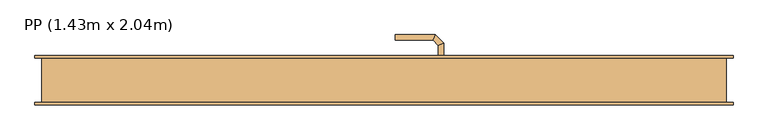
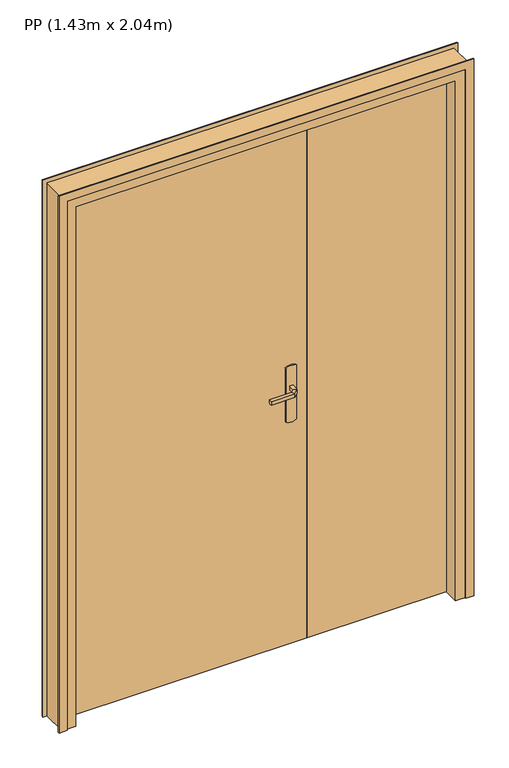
"""IFC4 building model written with IfcOpenShell, lengths in millimetres: door geometry, Int. Tierce : PP (1.43m x 2.04m)."""

from ifc_helpers import new_model, si_unit, point, frame, frame_2d, origin, origin_with_axes, place, context, project, spatial, polyline, circle_curve, ellipse_curve, trimmed, segment, composite_curve, outline, extrude, faceted_brep, source, transform, mapped, element, save
from ifc_brep_helpers import plane_surface, cylinder_surface, advanced_brep


def pp_1_43m_x_2_04m_4e16e3f7(model_context):
    return source(origin(), model_context, "Body", "SolidModel", [
        extrude(outline(composite_curve([segment(polyline([(870.0, 110.0), (1080.0, 110.0)]), True, "CONTINUOUS"), segment(trimmed(circle_curve(frame_2d((1045.3589838, 90.0)), 40.0), [point((1080.0, 110.0))], [point((1080.0, 70.0))], False, "CARTESIAN"), True, "CONTINUOUS"), segment(polyline([(1080.0, 70.0), (870.0, 70.0)]), True, "CONTINUOUS"), segment(trimmed(circle_curve(frame_2d((904.6410162, 90.0)), 40.0), [point((870.0, 70.0))], [point((870.0, 110.0))], False, "CARTESIAN"), True, "CONTINUOUS")], self_intersect=False)), frame((0.0, 49.0, 0.0), z_axis=(0.0, 1.0, 0.0), x_axis=(0.0, 0.0, 1.0)), (0.0, 0.0, 1.0), 5.0),
        extrude(outline(composite_curve([segment(polyline([(1080.0, 70.0), (870.0, 70.0)]), True, "CONTINUOUS"), segment(trimmed(circle_curve(frame_2d((904.6410162, 90.0)), 40.0), [point((870.0, 70.0))], [point((870.0, 110.0))], False, "CARTESIAN"), True, "CONTINUOUS"), segment(polyline([(870.0, 110.0), (1080.0, 110.0)]), True, "CONTINUOUS"), segment(trimmed(circle_curve(frame_2d((1045.3589838, 90.0)), 40.0), [point((1080.0, 110.0))], [point((1080.0, 70.0))], False, "CARTESIAN"), True, "CONTINUOUS")], self_intersect=False)), frame((0.0, 4.0, 0.0), z_axis=(0.0, 1.0, 0.0), x_axis=(0.0, 0.0, 1.0)), (0.0, 0.0, 1.0), 5.0),
        advanced_brep(
        [(96.0, 54.0, 1007.0), (84.0, 54.0, 1007.0), (84.0, 54.0, 993.0), (96.0, 54.0, 993.0), (96.0, 81.6509507, 1007.0), (84.0, 76.680388, 1007.0), (84.0, 76.680388, 993.0), (96.0, 81.6509507, 993.0), (77.62279, 100.0281607, 1007.0), (72.6522273, 88.0281607, 1007.0), (72.6522273, 88.0281607, 993.0), (77.62279, 100.0281607, 993.0), (-10.0186406, 100.0281607, 1007.0), (-10.0186406, 100.0281607, 993.0), (-10.0186406, 88.0281607, 993.0), (-10.0186406, 88.0281607, 1007.0)],
        [
            (0, 1, circle_curve(frame((90.0, 54.0, 986.9542278), z_axis=(0.0, -1.0, 0.0), x_axis=(-1.0, 0.0, 0.0)), 20.9244589)),
            (1, 2),
            (2, 3, circle_curve(frame((90.0, 54.0, 1013.0457722), z_axis=(0.0, -1.0, 0.0), x_axis=(-1.0, 0.0, 0.0)), 20.9244589)),
            (3, 0),
            (0, 4),
            (4, 5, ellipse_curve(frame((90.0, 79.1656693, 986.9542278), z_axis=(0.3826834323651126, -0.9238795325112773, 0.0), x_axis=(-0.9238795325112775, -0.38268343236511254, 0.0)), 22.6484711, 20.9244589)),
            (5, 1),
            (5, 6),
            (6, 2),
            (6, 7, ellipse_curve(frame((90.0, 79.1656693, 1013.0457722), z_axis=(0.3826834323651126, -0.9238795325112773, 0.0), x_axis=(-0.9238795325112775, -0.38268343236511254, 0.0)), 22.6484711, 20.9244589)),
            (7, 3),
            (7, 4),
            (4, 8),
            (8, 9, ellipse_curve(frame((75.1375086, 94.0281607, 986.9542278), z_axis=(0.9238795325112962, -0.38268343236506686, 0.0), x_axis=(-0.3826834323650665, -0.9238795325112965, 0.0)), 22.6484711, 20.9244589)),
            (9, 5),
            (9, 10),
            (10, 6),
            (10, 11, ellipse_curve(frame((75.1375086, 94.0281607, 1013.0457722), z_axis=(0.9238795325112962, -0.38268343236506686, 0.0), x_axis=(-0.3826834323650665, -0.9238795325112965, 0.0)), 22.6484711, 20.9244589)),
            (11, 7),
            (11, 8),
            (12, 13),
            (13, 14, circle_curve(frame((-10.0186406, 94.0281607, 1013.0457722), z_axis=(-1.0, 0.0, 0.0), x_axis=(0.0, -1.0, 0.0)), 20.9244589)),
            (14, 15),
            (15, 12, circle_curve(frame((-10.0186406, 94.0281607, 986.9542278), z_axis=(-1.0, 0.0, 0.0), x_axis=(0.0, -1.0, 0.0)), 20.9244589)),
            (8, 12),
            (15, 9),
            (14, 10),
            (13, 11),
        ],
        [
            plane_surface(frame((99.2195445, 54.0, 1000.0), z_axis=(0.0, -1.0, 0.0), x_axis=(0.0, 0.0, -1.0))),
            cylinder_surface(frame((90.0, 54.0, 986.9542278), z_axis=(0.0, -1.0, 0.0), x_axis=(-1.0, 0.0, 0.0)), 20.9244589),
            plane_surface(frame((84.0, 54.0, 1007.0), z_axis=(-1.0, 0.0, 0.0), x_axis=(0.0, 1.0, 0.0))),
            cylinder_surface(frame((90.0, 54.0, 1013.0457722), z_axis=(0.0, -1.0, 0.0), x_axis=(-1.0, 0.0, 0.0)), 20.9244589),
            plane_surface(frame((96.0, 54.0, 993.0), z_axis=(1.0, 0.0, 0.0), x_axis=(0.0, 1.0, 0.0))),
            cylinder_surface(frame((90.0, 79.1656693, 986.9542278), z_axis=(0.7071067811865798, -0.7071067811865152, 0.0), x_axis=(-0.7071067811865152, -0.7071067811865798, 0.0)), 20.9244589),
            plane_surface(frame((84.0, 76.680388, 1007.0), z_axis=(-0.7071067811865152, -0.7071067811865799, 0.0), x_axis=(-0.7071067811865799, 0.7071067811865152, 0.0))),
            cylinder_surface(frame((90.0, 79.1656693, 1013.0457722), z_axis=(0.7071067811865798, -0.7071067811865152, 0.0), x_axis=(-0.7071067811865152, -0.7071067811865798, 0.0)), 20.9244589),
            plane_surface(frame((96.0, 81.6509507, 993.0), z_axis=(0.7071067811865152, 0.7071067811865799, 0.0), x_axis=(-0.7071067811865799, 0.7071067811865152, 0.0))),
            plane_surface(frame((-10.0186406, 94.0281607, 990.7804555), z_axis=(-1.0, 0.0, 0.0), x_axis=(0.0, -1.0, 0.0))),
            cylinder_surface(frame((75.1375086, 94.0281607, 986.9542278), z_axis=(1.0, 0.0, 0.0), x_axis=(0.0, -1.0, 0.0)), 20.9244589),
            plane_surface(frame((72.6522273, 88.0281607, 1007.0), z_axis=(0.0, -1.0, 0.0), x_axis=(-1.0, 0.0, 0.0))),
            cylinder_surface(frame((75.1375086, 94.0281607, 1013.0457722), z_axis=(1.0, 0.0, 0.0), x_axis=(0.0, -1.0, 0.0)), 20.9244589),
            plane_surface(frame((77.62279, 100.0281607, 993.0), z_axis=(0.0, 1.0, 0.0), x_axis=(-1.0, 0.0, 0.0))),
        ],
        [
            (0, [[1, 2, 3, 4]]),
            (1, [[-1, 5, 6, 7]]),
            (2, [[-2, -7, 8, 9]]),
            (3, [[-3, -9, 10, 11]]),
            (4, [[-4, -11, 12, -5]]),
            (5, [[-6, 13, 14, 15]]),
            (6, [[-8, -15, 16, 17]]),
            (7, [[-10, -17, 18, 19]]),
            (8, [[-12, -19, 20, -13]]),
            (9, [[21, 22, 23, 24]]),
            (10, [[-14, 25, -24, 26]]),
            (11, [[-16, -26, -23, 27]]),
            (12, [[-18, -27, -22, 28]]),
            (13, [[-20, -28, -21, -25]]),
        ],
    ),
        advanced_brep(
        [(84.0, 4.0, 993.0), (84.0, 4.0, 1007.0), (96.0, 4.0, 1007.0), (96.0, 4.0, 993.0), (84.0, -18.4852045, 993.0), (84.0, -18.4852045, 1007.0), (96.0, -23.4557673, 1007.0), (96.0, -23.4557673, 993.0), (72.5147186, -29.9704859, 993.0), (72.5147186, -29.9704859, 1007.0), (77.4852814, -41.9704859, 1007.0), (77.4852814, -41.9704859, 993.0), (-10.0457837, -29.9704859, 993.0), (-10.0457837, -41.9704859, 993.0), (-10.0457837, -41.9704859, 1007.0), (-10.0457837, -29.9704859, 1007.0)],
        [
            (0, 1),
            (1, 2, circle_curve(frame((90.0, 4.0, 986.9542278), z_axis=(0.0, 1.0, 0.0), x_axis=(1.0, 0.0, 0.0)), 20.9244589)),
            (2, 3),
            (3, 0, circle_curve(frame((90.0, 4.0, 1013.0457722), z_axis=(0.0, 1.0, 0.0), x_axis=(1.0, 0.0, 0.0)), 20.9244589)),
            (0, 4),
            (4, 5),
            (5, 1),
            (5, 6, ellipse_curve(frame((90.0, -20.9704859, 986.9542278), z_axis=(0.3826834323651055, 0.9238795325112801, 0.0), x_axis=(-0.9238795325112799, 0.3826834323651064, 0.0)), 22.6484711, 20.9244589)),
            (6, 2),
            (6, 7),
            (7, 3),
            (7, 4, ellipse_curve(frame((90.0, -20.9704859, 1013.0457722), z_axis=(0.3826834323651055, 0.9238795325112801, 0.0), x_axis=(-0.9238795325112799, 0.3826834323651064, 0.0)), 22.6484711, 20.9244589)),
            (4, 8),
            (8, 9),
            (9, 5),
            (9, 10, ellipse_curve(frame((75.0, -35.9704859, 986.9542278), z_axis=(0.9238795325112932, 0.382683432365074, 0.0), x_axis=(-0.3826834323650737, 0.9238795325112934, 0.0)), 22.6484711, 20.9244589)),
            (10, 6),
            (10, 11),
            (11, 7),
            (11, 8, ellipse_curve(frame((75.0, -35.9704859, 1013.0457722), z_axis=(0.9238795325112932, 0.382683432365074, 0.0), x_axis=(-0.3826834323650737, 0.9238795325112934, 0.0)), 22.6484711, 20.9244589)),
            (12, 13, circle_curve(frame((-10.0457837, -35.9704859, 1013.0457722), z_axis=(-1.0, 0.0, 0.0), x_axis=(0.0, -1.0, 0.0)), 20.9244589)),
            (13, 14),
            (14, 15, circle_curve(frame((-10.0457837, -35.9704859, 986.9542278), z_axis=(-1.0, 0.0, 0.0), x_axis=(0.0, -1.0, 0.0)), 20.9244589)),
            (15, 12),
            (8, 12),
            (15, 9),
            (14, 10),
            (13, 11),
        ],
        [
            plane_surface(frame((99.2195445, 4.0, 1000.0), z_axis=(0.0, 1.0, 0.0), x_axis=(0.0, 0.0, 1.0))),
            plane_surface(frame((84.0, 4.0, 993.0), z_axis=(-1.0, 0.0, 0.0), x_axis=(0.0, -1.0, 0.0))),
            cylinder_surface(frame((90.0, 4.0, 986.9542278), z_axis=(0.0, 1.0, 0.0), x_axis=(1.0, 0.0, 0.0)), 20.9244589),
            plane_surface(frame((96.0, 4.0, 1007.0), z_axis=(1.0, 0.0, 0.0), x_axis=(0.0, -1.0, 0.0))),
            cylinder_surface(frame((90.0, 4.0, 1013.0457722), z_axis=(0.0, 1.0, 0.0), x_axis=(1.0, 0.0, 0.0)), 20.9244589),
            plane_surface(frame((84.0, -18.4852045, 993.0), z_axis=(-0.7071067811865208, 0.7071067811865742, 0.0), x_axis=(-0.7071067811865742, -0.7071067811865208, 0.0))),
            cylinder_surface(frame((90.0, -20.9704859, 986.9542278), z_axis=(0.7071067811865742, 0.7071067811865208, 0.0), x_axis=(0.7071067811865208, -0.7071067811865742, 0.0)), 20.9244589),
            plane_surface(frame((96.0, -23.4557673, 1007.0), z_axis=(0.7071067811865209, -0.7071067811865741, 0.0), x_axis=(-0.7071067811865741, -0.7071067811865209, 0.0))),
            cylinder_surface(frame((90.0, -20.9704859, 1013.0457722), z_axis=(0.7071067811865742, 0.7071067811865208, 0.0), x_axis=(0.7071067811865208, -0.7071067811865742, 0.0)), 20.9244589),
            plane_surface(frame((-10.0457837, -35.9704859, 990.7804555), z_axis=(-1.0, 0.0, 0.0), x_axis=(0.0, -1.0, 0.0))),
            plane_surface(frame((72.5147186, -29.9704859, 993.0), z_axis=(0.0, 1.0, 0.0), x_axis=(-1.0, 0.0, 0.0))),
            cylinder_surface(frame((75.0, -35.9704859, 986.9542278), z_axis=(1.0, 0.0, 0.0), x_axis=(0.0, -1.0, 0.0)), 20.9244589),
            plane_surface(frame((77.4852814, -41.9704859, 1007.0), z_axis=(0.0, -1.0, 0.0), x_axis=(-1.0, 0.0, 0.0))),
            cylinder_surface(frame((75.0, -35.9704859, 1013.0457722), z_axis=(1.0, 0.0, 0.0), x_axis=(0.0, -1.0, 0.0)), 20.9244589),
        ],
        [
            (0, [[1, 2, 3, 4]]),
            (1, [[-1, 5, 6, 7]]),
            (2, [[-2, -7, 8, 9]]),
            (3, [[-3, -9, 10, 11]]),
            (4, [[-4, -11, 12, -5]]),
            (5, [[-6, 13, 14, 15]]),
            (6, [[-8, -15, 16, 17]]),
            (7, [[-10, -17, 18, 19]]),
            (8, [[-12, -19, 20, -13]]),
            (9, [[21, 22, 23, 24]]),
            (10, [[-14, 25, -24, 26]]),
            (11, [[-16, -26, -23, 27]]),
            (12, [[-18, -27, -22, 28]]),
            (13, [[-20, -28, -21, -25]]),
        ],
    ),
        extrude(outline(polyline([(150.0, 9.0), (-750.0, 9.0), (-750.0, 49.0), (150.0, 49.0), (150.0, 9.0)])), origin_with_axes(), (0.0, 0.0, 1.0), 2040.0),
        faceted_brep([(-785.0, 49.0, 0.0), (-750.0, 49.0, 0.0), (-750.0, 9.0, 0.0), (-735.0, 9.0, 0.0), (-735.0, -49.0, 0.0), (-785.0, -49.0, 0.0), (-785.0, -49.0, 2075.0), (-785.0, 49.0, 2075.0), (-735.0, -49.0, 2025.0), (665.0, -49.0, 2025.0), (665.0, -49.0, 0.0), (715.0, -49.0, 0.0), (715.0, -49.0, 2075.0), (-735.0, 9.0, 2025.0), (-750.0, 9.0, 2040.0), (680.0, 9.0, 2040.0), (680.0, 9.0, 0.0), (665.0, 9.0, 0.0), (665.0, 9.0, 2025.0), (-750.0, 49.0, 2040.0), (715.0, 49.0, 2075.0), (715.0, 49.0, 0.0), (680.0, 49.0, 0.0), (680.0, 49.0, 2040.0)], [[[0, 1, 2, 3, 4, 5]], [[5, 6, 7, 0]], [[4, 8, 9, 10, 11, 12, 6, 5]], [[3, 13, 8, 4]], [[2, 14, 15, 16, 17, 18, 13, 3]], [[1, 19, 14, 2]], [[0, 7, 20, 21, 22, 23, 19, 1]], [[12, 11, 21, 20]], [[21, 11, 10, 17, 16, 22]], [[18, 17, 10, 9]], [[23, 22, 16, 15]], [[6, 12, 20, 7]], [[13, 18, 9, 8]], [[19, 23, 15, 14]]]),
        extrude(outline(polyline([(680.0, 49.0), (680.0, 9.0), (150.0, 9.0), (150.0, 49.0), (680.0, 49.0)])), origin_with_axes(), (0.0, 0.0, 1.0), 2040.0),
        extrude(outline(polyline([(0.0, -770.0), (2060.0, -770.0), (2060.0, 700.0), (0.0, 700.0), (0.0, 730.0), (2090.0, 730.0), (2090.0, -800.0), (0.0, -800.0), (0.0, -770.0)])), frame((0.0, 49.0, 0.0), z_axis=(0.0, 1.0, 0.0), x_axis=(0.0, 0.0, 1.0)), (0.0, 0.0, 1.0), 5.0),
        extrude(outline(polyline([(0.0, -770.0), (2060.0, -770.0), (2060.0, 700.0), (0.0, 700.0), (0.0, 730.0), (2090.0, 730.0), (2090.0, -800.0), (0.0, -800.0), (0.0, -770.0)])), frame((0.0, -54.0, 0.0), z_axis=(0.0, 1.0, 0.0), x_axis=(0.0, 0.0, 1.0)), (0.0, 0.0, 1.0), 5.0),
    ])


if __name__ == "__main__":
    model = new_model("IFC4")
    model_context = context("Model", 3, world=origin())
    ifc_project = project(units=[si_unit("LENGTHUNIT", "METRE", prefix="MILLI")], contexts=[model_context])
    site = spatial("IfcSite", under=ifc_project)
    building = spatial("IfcBuilding", under=site)
    placement = place(None, origin())
    pp_1_43m_x_2_04m_shape = pp_1_43m_x_2_04m_4e16e3f7(model_context)
    element("IfcDoor", 1, ObjectType="Int. Tierce : PP (1.43m x 2.04m)", at=placement, inside=building, context=model_context, shape_type="MappedRepresentation", body=[
        mapped(pp_1_43m_x_2_04m_shape, transform((0.0, 0.0, 0.0), x_axis=(1.0, 0.0, 0.0), y_axis=(0.0, 1.0, 0.0), z_axis=(0.0, 0.0, 1.0))),
    ])
    save(model, "model.ifc")
